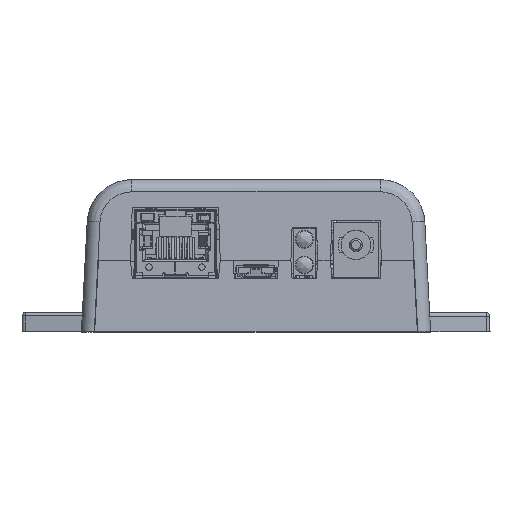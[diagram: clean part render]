
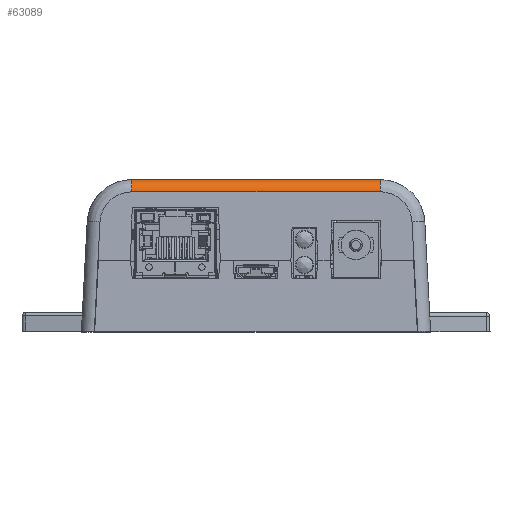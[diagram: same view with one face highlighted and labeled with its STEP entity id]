
A CAD part, top view. The second image highlights one B-rep face of the part: STEP entity #63089.
In plain terms, the highlighted cylindrical face has radius 2.54 mm (diameter 5.08 mm), a partial arc.
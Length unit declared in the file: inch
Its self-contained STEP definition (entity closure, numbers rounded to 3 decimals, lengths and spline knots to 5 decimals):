
#2608 = CARTESIAN_POINT ( 'NONE',  ( 0.32669, 1.35317, 2.51909 ) ) ;
#3036 = CARTESIAN_POINT ( 'NONE',  ( -1.60335, 1.36581, 2.51842 ) ) ;
#3397 = CARTESIAN_POINT ( 'NONE',  ( -1.60416, 1.44794, 2.43188 ) ) ;
#3763 = CARTESIAN_POINT ( 'NONE',  ( 0.32737, 1.42149, 2.48698 ) ) ;
#5152 = VERTEX_POINT ( 'NONE', #2608 ) ;
#5590 = VERTEX_POINT ( 'NONE', #31152 ) ;
#8425 = CYLINDRICAL_SURFACE ( 'NONE', #68967, 0.1 ) ;
#9209 = EDGE_CURVE ( 'NONE', #21636, #36064, #72497, .T. ) ;
#9283 = CARTESIAN_POINT ( 'NONE',  ( 0.32729, 1.41306, 2.49521 ) ) ;
#9336 = EDGE_CURVE ( 'NONE', #5590, #5152, #59307, .T. ) ;
#15171 = CARTESIAN_POINT ( 'NONE',  ( 0.3269, 1.3741, 2.51617 ) ) ;
#16643 = CARTESIAN_POINT ( 'NONE',  ( 0.32708, 1.3912, 2.50984 ) ) ;
#20200 = DIRECTION ( 'NONE',  ( 1., 0., 0. ) ) ;
#21636 = VERTEX_POINT ( 'NONE', #51912 ) ;
#22181 = CARTESIAN_POINT ( 'NONE',  ( 0.32763, 1.44594, 2.44285 ) ) ;
#22615 = ORIENTED_EDGE ( 'NONE', *, *, #34578, .F. ) ;
#25135 = CARTESIAN_POINT ( 'NONE',  ( 0.32765, 1.44794, 2.43059 ) ) ;
#25859 = CARTESIAN_POINT ( 'NONE',  ( -1.60407, 1.44551, 2.44453 ) ) ;
#26225 = CARTESIAN_POINT ( 'NONE',  ( 0.3274, 1.42441, 2.48369 ) ) ;
#26288 = DIRECTION ( 'NONE',  ( -1., 0., 0. ) ) ;
#26593 = CARTESIAN_POINT ( 'NONE',  ( 0.32669, 1.35317, 2.51909 ) ) ;
#27590 = CARTESIAN_POINT ( 'NONE',  ( -1.60327, 1.35317, 2.51909 ) ) ;
#27690 = CARTESIAN_POINT ( 'NONE',  ( 0.32738, 1.42248, 2.48589 ) ) ;
#30677 = CARTESIAN_POINT ( 'NONE',  ( 0.32765, 1.44794, 2.41922 ) ) ;
#31021 = CARTESIAN_POINT ( 'NONE',  ( -1.60383, 1.42918, 2.47888 ) ) ;
#31152 = CARTESIAN_POINT ( 'NONE',  ( 0.32765, 1.44794, 2.41922 ) ) ;
#31359 = VECTOR ( 'NONE', #26288, 39.37008 ) ;
#31753 = CARTESIAN_POINT ( 'NONE',  ( 0.32736, 1.42074, 2.48778 ) ) ;
#32562 = CARTESIAN_POINT ( 'NONE',  ( -1.99303, 1.35317, 2.51909 ) ) ;
#32872 = CARTESIAN_POINT ( 'NONE',  ( 0.32734, 1.41847, 2.4902 ) ) ;
#34578 = EDGE_CURVE ( 'NONE', #5152, #36064, #43241, .T. ) ;
#36064 = VERTEX_POINT ( 'NONE', #27590 ) ;
#36813 = ORIENTED_EDGE ( 'NONE', *, *, #38445, .F. ) ;
#37654 = CARTESIAN_POINT ( 'NONE',  ( 0.32744, 1.42906, 2.47779 ) ) ;
#38022 = CARTESIAN_POINT ( 'NONE',  ( 0.32736, 1.42056, 2.48797 ) ) ;
#38262 = EDGE_LOOP ( 'NONE', ( #50684, #22615, #62117, #36813 ) ) ;
#38403 = CARTESIAN_POINT ( 'NONE',  ( 0.32736, 1.42063, 2.48789 ) ) ;
#38445 = EDGE_CURVE ( 'NONE', #21636, #5590, #53949, .T. ) ;
#43241 = LINE ( 'NONE', #32562, #31359 ) ;
#44651 = CARTESIAN_POINT ( 'NONE',  ( 0.32736, 1.42099, 2.48751 ) ) ;
#47609 = CARTESIAN_POINT ( 'NONE',  ( -1.60391, 1.43613, 2.46803 ) ) ;
#47968 = CARTESIAN_POINT ( 'NONE',  ( -1.60327, 1.35317, 2.51909 ) ) ;
#48336 = CARTESIAN_POINT ( 'NONE',  ( -1.60343, 1.37831, 2.51534 ) ) ;
#49459 = CARTESIAN_POINT ( 'NONE',  ( 0.32715, 1.39821, 2.50592 ) ) ;
#49821 = CARTESIAN_POINT ( 'NONE',  ( 0.32746, 1.43096, 2.47506 ) ) ;
#50187 = CARTESIAN_POINT ( 'NONE',  ( 0.32741, 1.426, 2.48175 ) ) ;
#50684 = ORIENTED_EDGE ( 'NONE', *, *, #9209, .T. ) ;
#51912 = CARTESIAN_POINT ( 'NONE',  ( -1.60424, 1.44794, 2.41922 ) ) ;
#53376 = CARTESIAN_POINT ( 'NONE',  ( -0.63829, 1.34794, 2.41922 ) ) ;
#53512 = CARTESIAN_POINT ( 'NONE',  ( -1.60367, 1.41176, 2.49724 ) ) ;
#53949 = LINE ( 'NONE', #66095, #68028 ) ;
#54238 = CARTESIAN_POINT ( 'NONE',  ( 0.32755, 1.43912, 2.46077 ) ) ;
#55709 = CARTESIAN_POINT ( 'NONE',  ( 0.32752, 1.43622, 2.46665 ) ) ;
#58912 = FACE_OUTER_BOUND ( 'NONE', #38262, .T. ) ;
#59053 = CARTESIAN_POINT ( 'NONE',  ( -1.60424, 1.44794, 2.41922 ) ) ;
#59130 = DIRECTION ( 'NONE',  ( 1., 0., 0. ) ) ;
#59307 = B_SPLINE_CURVE_WITH_KNOTS ( 'NONE', 3,
 ( #30677, #25135, #22181, #54238, #55709, #49821, #37654, #50187, #26225, #27690, #3763, #44651, #31753, #38403, #38022, #72627, #67119, #32872, #9283, #66746, #49459, #16643, #15171, #60137, #26593 ),
 .UNSPECIFIED., .F., .F.,
 ( 4, 2, 2, 2, 1, 1, 1, 1, 1, 2, 2, 2, 2, 2, 4 ),
 ( 0., 0.25, 0.375, 0.4375, 0.46875, 0.48438, 0.49219, 0.49609, 0.49805, 0.49902, 0.5, 0.625, 0.75, 0.875, 1. ),
 .UNSPECIFIED. ) ;
#60137 = CARTESIAN_POINT ( 'NONE',  ( 0.3268, 1.364, 2.51852 ) ) ;
#62117 = ORIENTED_EDGE ( 'NONE', *, *, #9336, .F. ) ;
#63089 = ADVANCED_FACE ( 'NONE', ( #58912 ), #8425, .T. ) ;
#66095 = CARTESIAN_POINT ( 'NONE',  ( -0.63829, 1.44794, 2.41922 ) ) ;
#66610 = DIRECTION ( 'NONE',  ( 0., 1., 0. ) ) ;
#66746 = CARTESIAN_POINT ( 'NONE',  ( 0.32725, 1.40912, 2.49859 ) ) ;
#67119 = CARTESIAN_POINT ( 'NONE',  ( 0.32735, 1.41998, 2.48858 ) ) ;
#68028 = VECTOR ( 'NONE', #59130, 39.37008 ) ;
#68967 = AXIS2_PLACEMENT_3D ( 'NONE', #53376, #20200, #66610 ) ;
#70083 = CARTESIAN_POINT ( 'NONE',  ( -1.60359, 1.40129, 2.50474 ) ) ;
#72497 = B_SPLINE_CURVE_WITH_KNOTS ( 'NONE', 3,
 ( #59053, #3397, #25859, #47609, #31021, #53512, #70083, #48336, #3036, #47968 ),
 .UNSPECIFIED., .F., .F.,
 ( 4, 2, 2, 2, 4 ),
 ( 0., 0.25, 0.5, 0.75, 1. ),
 .UNSPECIFIED. ) ;
#72627 = CARTESIAN_POINT ( 'NONE',  ( 0.32736, 1.42049, 2.48804 ) ) ;
